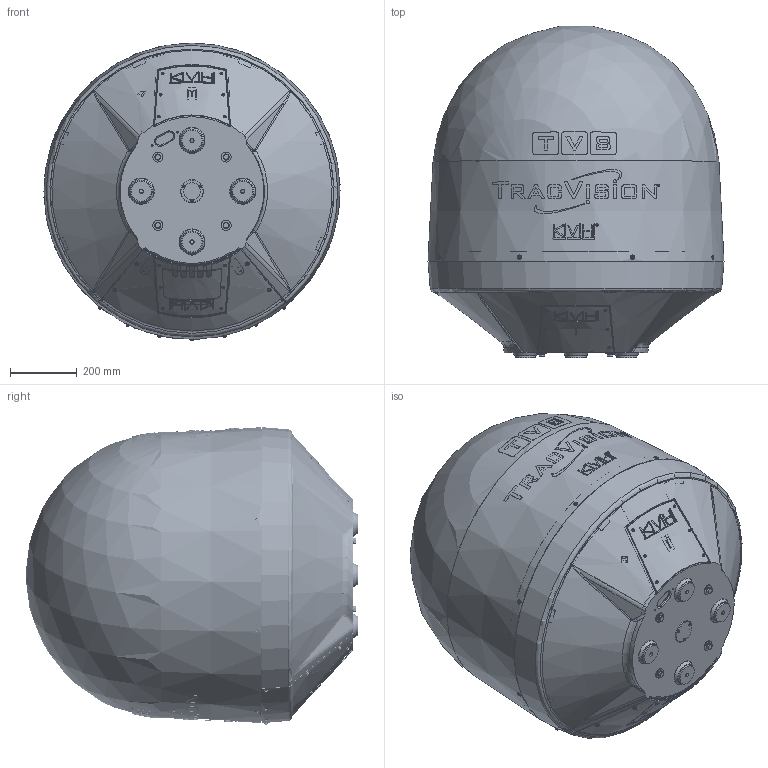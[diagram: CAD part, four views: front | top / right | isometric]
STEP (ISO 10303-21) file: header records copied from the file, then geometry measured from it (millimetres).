
FILE_DESCRIPTION (( 'STEP AP214' ), '1' );
FILE_NAME ('99-0383_A.STEP', '2025-09-12T16:00:10', ( '' ), ( '' ), 'SwSTEP 2.0', 'SolidWorks 2023', '' );
FILE_SCHEMA (( 'AUTOMOTIVE_DESIGN' ));
Length unit declared in the file: inch
Products named in the file (1): 99-0383_A
Bounding box: 889 x 995.93 x 893.99 mm (x, y, z)
Volume: 14585921.2 mm3; surface area: 6838720.4 mm2
Topology: 208 solids, 208 shells, 5434 faces, 13411 edges, 8453 vertices
Faces by surface type: plane 2312, cylinder 1388, bspline 791, cone 484, torus 304, sphere 155
Full cylindrical faces by diameter (mm): 1.27 x4, 2.261 x5, 2.845 x10, 3.175 x14, 3.658 x13, 4 x21, 4.064 x10, 4.166 x19, 4.318 x8, 4.496 x12, 4.648 x5, 4.775 x22, 4.826 x15, 4.851 x17, 5.08 x8, 5.409 x2, 5.563 x18, 5.588 x2, 5.74 x4, 5.887 x2, 6.35 x10, 6.756 x11, 7.052 x2, 7.112 x4, 7.273 x2, 7.925 x9, 8 x21, 8.179 x19, 8.712 x4, 9.525 x15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
Entity records: 254482 total; most frequent: CARTESIAN_POINT 133284, ORIENTED_EDGE 24860, DIRECTION 22491, EDGE_CURVE 12430, AXIS2_PLACEMENT_3D 8592, VERTEX_POINT 8297, EDGE_LOOP 6797, FACE_OUTER_BOUND 5936
